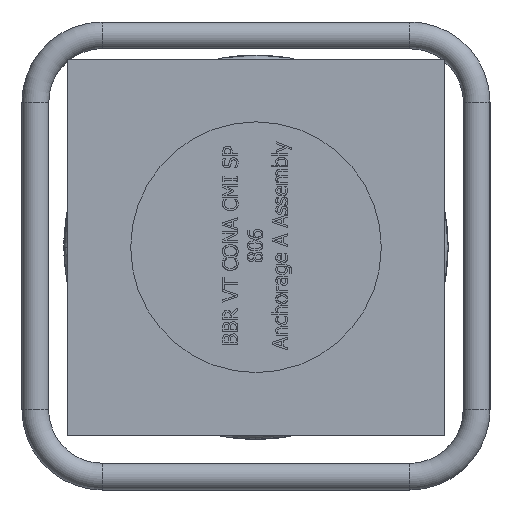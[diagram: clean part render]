
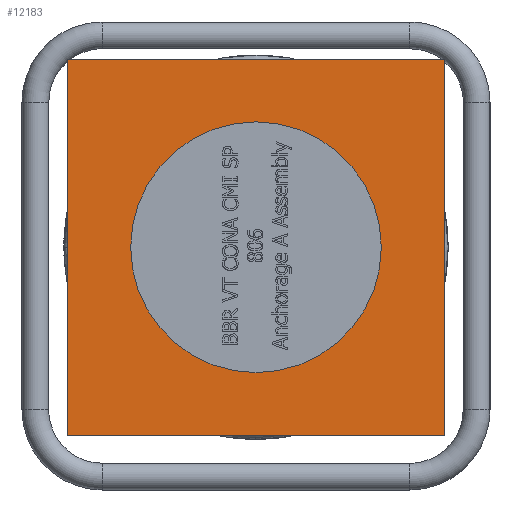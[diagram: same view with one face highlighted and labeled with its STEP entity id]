
A CAD part, left-side view. The second image highlights one B-rep face of the part: STEP entity #12183.
In plain terms, the highlighted planar face has unit normal (-1, 0, 0).
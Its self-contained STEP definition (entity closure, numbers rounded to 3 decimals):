
#1924=LINE('',#23857,#2944);
#1928=LINE('',#23865,#2948);
#1931=LINE('',#23871,#2951);
#1934=LINE('',#23876,#2954);
#2944=VECTOR('',#14324,225.);
#2948=VECTOR('',#14330,225.);
#2951=VECTOR('',#14335,225.);
#2954=VECTOR('',#14340,225.);
#3255=PLANE('',#12566);
#3367=FACE_BOUND('',#4732,.T.);
#4005=FACE_OUTER_BOUND('',#4731,.T.);
#4731=EDGE_LOOP('',(#10878,#10879,#10880,#10881));
#4732=EDGE_LOOP('',(#10882));
#4771=CIRCLE('',#12552,75.);
#5885=VERTEX_POINT('',#21624);
#5891=VERTEX_POINT('',#23855);
#5892=VERTEX_POINT('',#23856);
#5895=VERTEX_POINT('',#23864);
#5897=VERTEX_POINT('',#23870);
#7542=EDGE_CURVE('',#5885,#5885,#4771,.T.);
#7550=EDGE_CURVE('',#5891,#5892,#1924,.T.);
#7554=EDGE_CURVE('',#5892,#5895,#1928,.T.);
#7557=EDGE_CURVE('',#5895,#5897,#1931,.T.);
#7560=EDGE_CURVE('',#5897,#5891,#1934,.T.);
#10878=ORIENTED_EDGE('',*,*,#7560,.T.);
#10879=ORIENTED_EDGE('',*,*,#7550,.T.);
#10880=ORIENTED_EDGE('',*,*,#7554,.T.);
#10881=ORIENTED_EDGE('',*,*,#7557,.T.);
#10882=ORIENTED_EDGE('',*,*,#7542,.T.);
#12183=ADVANCED_FACE('',(#4005,#3367),#3255,.T.);
#12552=AXIS2_PLACEMENT_3D('',#21625,#14302,#14303);
#12566=AXIS2_PLACEMENT_3D('',#23878,#14342,#14343);
#14302=DIRECTION('center_axis',(1.,0.,0.));
#14303=DIRECTION('ref_axis',(0.,0.,
1.));
#14324=DIRECTION('',(0.,0.,-1.));
#14330=DIRECTION('',(0.,-1.,0.));
#14335=DIRECTION('',(0.,0.,1.));
#14340=DIRECTION('',(0.,1.,0.));
#14342=DIRECTION('center_axis',(-1.,0.,0.));
#14343=DIRECTION('ref_axis',(0.,0.,-1.));
#21624=CARTESIAN_POINT('',(-112.151,-75.,5.253));
#21625=CARTESIAN_POINT('Origin',(-112.151,0.,
5.253));
#23855=CARTESIAN_POINT('',(-112.151,112.5,117.753));
#23856=CARTESIAN_POINT('',(-112.151,112.5,-107.247));
#23857=CARTESIAN_POINT('',(-112.151,112.5,117.753));
#23864=CARTESIAN_POINT('',(-112.151,-112.5,-107.247));
#23865=CARTESIAN_POINT('',(-112.151,112.5,-107.247));
#23870=CARTESIAN_POINT('',(-112.151,-112.5,117.753));
#23871=CARTESIAN_POINT('',(-112.151,-112.5,-107.247));
#23876=CARTESIAN_POINT('',(-112.151,-112.5,117.753));
#23878=CARTESIAN_POINT('Origin',(-112.151,0.,
5.253));
